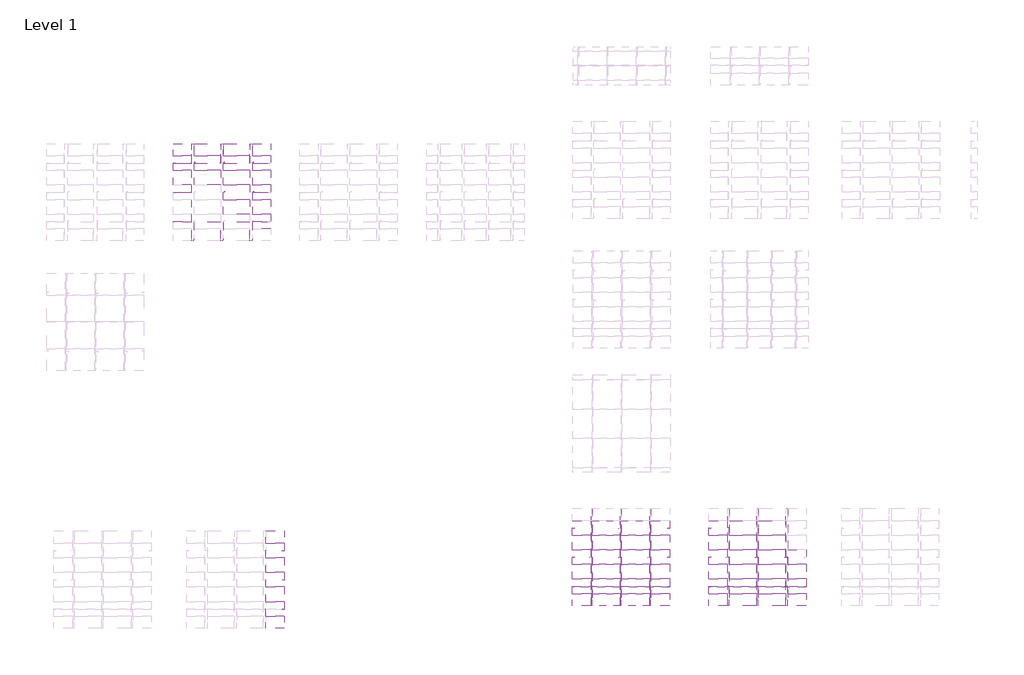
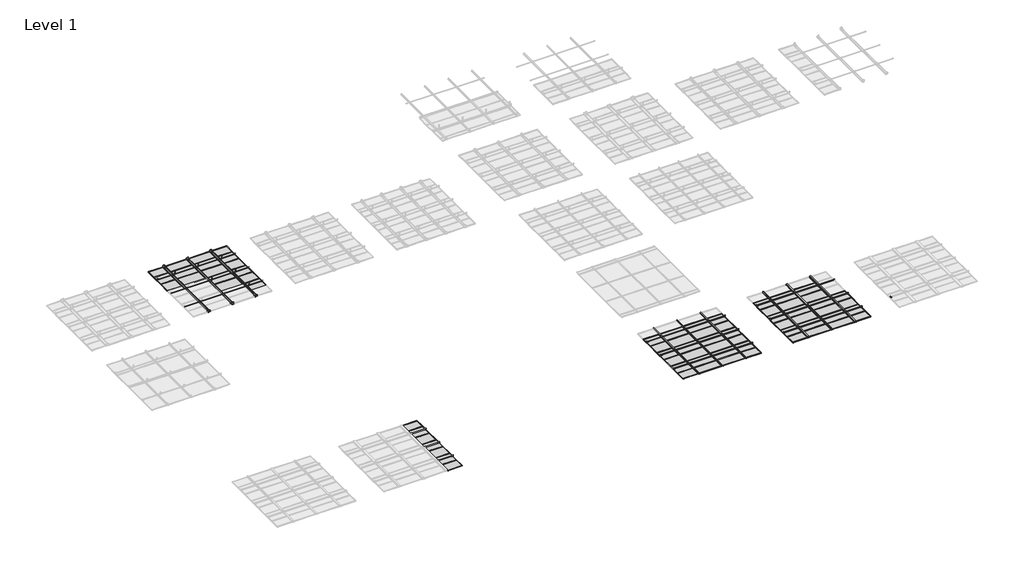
# One storey, part 4 of 32: 138 proxies.
"""IFC4 building model written with IfcOpenShell, lengths in millimetres."""

from ifc_helpers import new_model, si_unit, origin, place, context, project, spatial, transform, mapped, element, save
from components import generic_models_26e582ee, generic_models_d7250844, generic_models_7bf1d95b, generic_models_fdcbfbd4, generic_models_8bfca867, generic_models_ce491251, generic_models_84b6d0ed, generic_models_a920f71d, generic_models_29f93f66, generic_models_1190d022, generic_models_44d01217, generic_models_744256a4, generic_models_9b3707d3, generic_models_87aa2ed6, generic_models_93e67717, generic_models_0d7f372a, generic_models_a7cc5778, generic_models_073f8bfa, generic_models_5a70d6f2, generic_models_2307843b, generic_models_0fcaee43, generic_models_a7669d07, generic_models_9e18e937, generic_models_28f6a95c

model = new_model("IFC4")

# Units and contexts
model_context = context("Model", 3, world=origin())
ifc_project = project(units=[si_unit("LENGTHUNIT", "METRE", prefix="MILLI")], contexts=[model_context])

# Site, building, storey
site = spatial("IfcSite", under=ifc_project)
building = spatial("IfcBuilding", under=site)
storey = spatial("IfcBuildingStorey", under=building, Name="Level 1", Elevation=0.0)

# Proxies
placement = place(None, origin())
generic_models_shape = generic_models_26e582ee(model_context)
element("IfcBuildingElementProxy", 1, Name="durlum_S55.4-BR_RHOMBOS_panel : durlum_S55.4-BR_RHOMBOS_panel", ObjectType="durlum_S55.4-BR_RHOMBOS_panel : durlum_S55.4-BR_RHOMBOS_panel", at=placement, inside=storey, context=model_context, shape_type="MappedRepresentation", body=[
    mapped(generic_models_shape, transform((-33195.2269838, -2961.3211481, 3800.0), x_axis=(1.0, 0.0, 0.0), y_axis=(0.0, 1.0, 0.0), z_axis=(0.0, 0.0, 1.0))),
])
element("IfcBuildingElementProxy", 2, Name="durlum_S55.4-BR_RHOMBOS_panel : durlum_S55.4-BR_RHOMBOS_panel", ObjectType="durlum_S55.4-BR_RHOMBOS_panel : durlum_S55.4-BR_RHOMBOS_panel", at=placement, inside=storey, context=model_context, shape_type="MappedRepresentation", body=[
    mapped(generic_models_shape, transform((-33195.2269838, -2361.3211481, 3800.0), x_axis=(1.0, 0.0, 0.0), y_axis=(0.0, 1.0, 0.0), z_axis=(0.0, 0.0, 1.0))),
])
element("IfcBuildingElementProxy", 3, Name="durlum_S55.4-BR_RHOMBOS_panel : durlum_S55.4-BR_RHOMBOS_panel", ObjectType="durlum_S55.4-BR_RHOMBOS_panel : durlum_S55.4-BR_RHOMBOS_panel", at=placement, inside=storey, context=model_context, shape_type="MappedRepresentation", body=[
    mapped(generic_models_shape, transform((-34395.2269838, -1761.3211481, 3800.0), x_axis=(1.0, 0.0, 0.0), y_axis=(0.0, 1.0, 0.0), z_axis=(0.0, 0.0, 1.0))),
])
element("IfcBuildingElementProxy", 4, Name="durlum_S55.4-BR_RHOMBOS_panel : durlum_S55.4-BR_RHOMBOS_panel", ObjectType="durlum_S55.4-BR_RHOMBOS_panel : durlum_S55.4-BR_RHOMBOS_panel", at=placement, inside=storey, context=model_context, shape_type="MappedRepresentation", body=[
    mapped(generic_models_shape, transform((-33195.2269838, -1761.3211481, 3800.0), x_axis=(1.0, 0.0, 0.0), y_axis=(0.0, 1.0, 0.0), z_axis=(0.0, 0.0, 1.0))),
])
element("IfcBuildingElementProxy", 5, Name="durlum_S55.4-BR_RHOMBOS_panel : durlum_S55.4-BR_RHOMBOS_panel", ObjectType="durlum_S55.4-BR_RHOMBOS_panel : durlum_S55.4-BR_RHOMBOS_panel", at=placement, inside=storey, context=model_context, shape_type="MappedRepresentation", body=[
    mapped(generic_models_shape, transform((-34395.2269838, -1161.3211481, 3800.0), x_axis=(1.0, 0.0, 0.0), y_axis=(0.0, 1.0, 0.0), z_axis=(0.0, 0.0, 1.0))),
])
element("IfcBuildingElementProxy", 6, Name="durlum_S55.4-BR_RHOMBOS_panel : durlum_S55.4-BR_RHOMBOS_panel", ObjectType="durlum_S55.4-BR_RHOMBOS_panel : durlum_S55.4-BR_RHOMBOS_panel", at=placement, inside=storey, context=model_context, shape_type="MappedRepresentation", body=[
    mapped(generic_models_shape, transform((-33195.2269838, -1161.3211481, 3800.0), x_axis=(1.0, 0.0, 0.0), y_axis=(0.0, 1.0, 0.0), z_axis=(0.0, 0.0, 1.0))),
])
generic_models_2_shape = generic_models_d7250844(model_context)
element("IfcBuildingElementProxy", 7, Name="durlum_S55.4-BR_RHOMBOS_panel : durlum_S55.4-BR_RHOMBOS_panel_wall_width_cut", ObjectType="durlum_S55.4-BR_RHOMBOS_panel : durlum_S55.4-BR_RHOMBOS_panel_wall_width_cut", at=placement, inside=storey, context=model_context, shape_type="MappedRepresentation", body=[
    mapped(generic_models_2_shape, transform((-33195.2269838, -611.3211481, 3800.0), x_axis=(1.0, 0.0, 0.0), y_axis=(0.0, 1.0, 0.0), z_axis=(0.0, 0.0, 1.0))),
])
element("IfcBuildingElementProxy", 8, Name="durlum_S55.4-BR_RHOMBOS_panel : durlum_S55.4-BR_RHOMBOS_panel_wall_width_cut", ObjectType="durlum_S55.4-BR_RHOMBOS_panel : durlum_S55.4-BR_RHOMBOS_panel_wall_width_cut", at=placement, inside=storey, context=model_context, shape_type="MappedRepresentation", body=[
    mapped(generic_models_2_shape, transform((-34395.2269838, -611.3211481, 3800.0), x_axis=(1.0, 0.0, 0.0), y_axis=(0.0, 1.0, 0.0), z_axis=(0.0, 0.0, 1.0))),
])
generic_models_3_shape = generic_models_7bf1d95b(model_context)
element("IfcBuildingElementProxy", 9, Name="durlum_S55.4-BR_RHOMBOS_panel : durlum_S55.4-BR_RHOMBOS_panel_wall_length_cut", ObjectType="durlum_S55.4-BR_RHOMBOS_panel : durlum_S55.4-BR_RHOMBOS_panel_wall_length_cut", at=placement, inside=storey, context=model_context, shape_type="MappedRepresentation", body=[
    mapped(generic_models_3_shape, transform((-32167.7269838, -2961.3211481, 3800.0), x_axis=(1.0, 0.0, 0.0), y_axis=(0.0, 1.0, 0.0), z_axis=(0.0, 0.0, 1.0))),
])
element("IfcBuildingElementProxy", 10, Name="durlum_S55.4-BR_RHOMBOS_panel : durlum_S55.4-BR_RHOMBOS_panel_wall_length_cut", ObjectType="durlum_S55.4-BR_RHOMBOS_panel : durlum_S55.4-BR_RHOMBOS_panel_wall_length_cut", at=placement, inside=storey, context=model_context, shape_type="MappedRepresentation", body=[
    mapped(generic_models_3_shape, transform((-32167.7269838, -2361.3211481, 3800.0), x_axis=(1.0, 0.0, 0.0), y_axis=(0.0, 1.0, 0.0), z_axis=(0.0, 0.0, 1.0))),
])
element("IfcBuildingElementProxy", 11, Name="durlum_S55.4-BR_RHOMBOS_panel : durlum_S55.4-BR_RHOMBOS_panel_wall_length_cut", ObjectType="durlum_S55.4-BR_RHOMBOS_panel : durlum_S55.4-BR_RHOMBOS_panel_wall_length_cut", at=placement, inside=storey, context=model_context, shape_type="MappedRepresentation", body=[
    mapped(generic_models_3_shape, transform((-35422.7269838, -1761.3211481, 3800.0), x_axis=(1.0, 0.0, 0.0), y_axis=(0.0, 1.0, 0.0), z_axis=(0.0, 0.0, 1.0))),
])
element("IfcBuildingElementProxy", 12, Name="durlum_S55.4-BR_RHOMBOS_panel : durlum_S55.4-BR_RHOMBOS_panel_wall_length_cut", ObjectType="durlum_S55.4-BR_RHOMBOS_panel : durlum_S55.4-BR_RHOMBOS_panel_wall_length_cut", at=placement, inside=storey, context=model_context, shape_type="MappedRepresentation", body=[
    mapped(generic_models_3_shape, transform((-32167.7269838, -1761.3211481, 3800.0), x_axis=(1.0, 0.0, 0.0), y_axis=(0.0, 1.0, 0.0), z_axis=(0.0, 0.0, 1.0))),
])
element("IfcBuildingElementProxy", 13, Name="durlum_S55.4-BR_RHOMBOS_panel : durlum_S55.4-BR_RHOMBOS_panel_wall_length_cut", ObjectType="durlum_S55.4-BR_RHOMBOS_panel : durlum_S55.4-BR_RHOMBOS_panel_wall_length_cut", at=placement, inside=storey, context=model_context, shape_type="MappedRepresentation", body=[
    mapped(generic_models_3_shape, transform((-32167.7269838, -3561.3211481, 3800.0), x_axis=(1.0, 0.0, 0.0), y_axis=(0.0, 1.0, 0.0), z_axis=(0.0, 0.0, 1.0))),
])
element("IfcBuildingElementProxy", 14, Name="durlum_S55.4-BR_RHOMBOS_panel : durlum_S55.4-BR_RHOMBOS_panel_wall_length_cut", ObjectType="durlum_S55.4-BR_RHOMBOS_panel : durlum_S55.4-BR_RHOMBOS_panel_wall_length_cut", at=placement, inside=storey, context=model_context, shape_type="MappedRepresentation", body=[
    mapped(generic_models_3_shape, transform((-32167.7269838, -1161.3211481, 3800.0), x_axis=(1.0, 0.0, 0.0), y_axis=(0.0, 1.0, 0.0), z_axis=(0.0, 0.0, 1.0))),
])
element("IfcBuildingElementProxy", 15, Name="durlum_S55.4-BR_RHOMBOS_panel : durlum_S55.4-BR_RHOMBOS_panel_wall_length_cut", ObjectType="durlum_S55.4-BR_RHOMBOS_panel : durlum_S55.4-BR_RHOMBOS_panel_wall_length_cut", at=placement, inside=storey, context=model_context, shape_type="MappedRepresentation", body=[
    mapped(generic_models_3_shape, transform((-35422.7269838, -1161.3211481, 3800.0), x_axis=(1.0, 0.0, 0.0), y_axis=(0.0, 1.0, 0.0), z_axis=(0.0, 0.0, 1.0))),
])
generic_models_4_shape = generic_models_fdcbfbd4(model_context)
element("IfcBuildingElementProxy", 16, Name="durlum_S55.4-BR_RHOMBOS_panel : durlum_S55.4-BR_RHOMBOS_panel_wall_corner", ObjectType="durlum_S55.4-BR_RHOMBOS_panel : durlum_S55.4-BR_RHOMBOS_panel_wall_corner", at=placement, inside=storey, context=model_context, shape_type="MappedRepresentation", body=[
    mapped(generic_models_4_shape, transform((-32167.7269838, -611.3211481, 3800.0), x_axis=(1.0, 0.0, 0.0), y_axis=(0.0, 1.0, 0.0), z_axis=(0.0, 0.0, 1.0))),
])
element("IfcBuildingElementProxy", 17, Name="durlum_S55.4-BR_RHOMBOS_panel : durlum_S55.4-BR_RHOMBOS_panel_wall_corner", ObjectType="durlum_S55.4-BR_RHOMBOS_panel : durlum_S55.4-BR_RHOMBOS_panel_wall_corner", at=placement, inside=storey, context=model_context, shape_type="MappedRepresentation", body=[
    mapped(generic_models_4_shape, transform((-35422.7269838, -611.3211481, 3800.0), x_axis=(1.0, 0.0, 0.0), y_axis=(0.0, 1.0, 0.0), z_axis=(0.0, 0.0, 1.0))),
])
generic_models_5_shape = generic_models_8bfca867(model_context)
element("IfcBuildingElementProxy", 18, Name="durlum_S5.4K-BR_RHOMBOS : durlum_S5.4K-BR_RHOMBOS", ObjectType="durlum_S5.4K-BR_RHOMBOS : durlum_S5.4K-BR_RHOMBOS", at=placement, inside=storey, context=model_context, shape_type="MappedRepresentation", body=[
    mapped(generic_models_5_shape, transform((-33795.2269838, -2361.3211481, 1700.0), x_axis=(1.0, 0.0, 0.0), y_axis=(0.0, 1.0, 0.0), z_axis=(0.0, 0.0, 1.0))),
])
generic_models_6_shape = generic_models_ce491251(model_context)
element("IfcBuildingElementProxy", 19, Name="durlum_U1300 : durlum_U1300", ObjectType="durlum_U1300 : durlum_U1300", at=placement, inside=storey, context=model_context, shape_type="MappedRepresentation", body=[
    mapped(generic_models_6_shape, transform((-34895.2269838, -1161.3211481, 3149.4124682), x_axis=(-1.0, 0.0, 0.0), y_axis=(0.0, -1.0, 0.0), z_axis=(0.0, 0.0, 1.0))),
])
element("IfcBuildingElementProxy", 20, Name="durlum_U1300 : durlum_U1300", ObjectType="durlum_U1300 : durlum_U1300", at=placement, inside=storey, context=model_context, shape_type="MappedRepresentation", body=[
    mapped(generic_models_6_shape, transform((-32495.2269838, -1161.3211481, 3149.4124682), x_axis=(-1.0, 0.0, 0.0), y_axis=(0.0, -1.0, 0.0), z_axis=(0.0, 0.0, 1.0))),
])
element("IfcBuildingElementProxy", 21, Name="durlum_U1300 : durlum_U1300", ObjectType="durlum_U1300 : durlum_U1300", at=placement, inside=storey, context=model_context, shape_type="MappedRepresentation", body=[
    mapped(generic_models_6_shape, transform((-33695.2269838, -1161.3211481, 3149.4124682), x_axis=(-1.0, 0.0, 0.0), y_axis=(0.0, -1.0, 0.0), z_axis=(0.0, 0.0, 1.0))),
])
element("IfcBuildingElementProxy", 22, Name="durlum_U1300 : durlum_U1300", ObjectType="durlum_U1300 : durlum_U1300", at=placement, inside=storey, context=model_context, shape_type="MappedRepresentation", body=[
    mapped(generic_models_6_shape, transform((-32495.2269838, -2361.3211481, 3149.4124682), x_axis=(-1.0, 0.0, 0.0), y_axis=(0.0, -1.0, 0.0), z_axis=(0.0, 0.0, 1.0))),
])
element("IfcBuildingElementProxy", 23, Name="durlum_U1300 : durlum_U1300", ObjectType="durlum_U1300 : durlum_U1300", at=placement, inside=storey, context=model_context, shape_type="MappedRepresentation", body=[
    mapped(generic_models_6_shape, transform((-33695.2269838, -2361.3211481, 3149.4124682), x_axis=(-1.0, 0.0, 0.0), y_axis=(0.0, -1.0, 0.0), z_axis=(0.0, 0.0, 1.0))),
])
generic_models_7_shape = generic_models_84b6d0ed(model_context)
element("IfcBuildingElementProxy", 24, Name="durlum_OM76_bracket : durlum_OM76_bracket", ObjectType="durlum_OM76_bracket : durlum_OM76_bracket", at=placement, inside=storey, context=model_context, shape_type="MappedRepresentation", body=[
    mapped(generic_models_7_shape, transform((-18619.1736977, -17333.8492254, 3864.0), x_axis=(1.0, 0.0, 0.0), y_axis=(0.0, 1.0, 0.0), z_axis=(0.0, 0.0, 1.0))),
])
element("IfcBuildingElementProxy", 25, Name="durlum_OM76_bracket : durlum_OM76_bracket", ObjectType="durlum_OM76_bracket : durlum_OM76_bracket", at=placement, inside=storey, context=model_context, shape_type="MappedRepresentation", body=[
    mapped(generic_models_7_shape, transform((-16219.1736977, -17333.8492254, 3864.0), x_axis=(1.0, 0.0, 0.0), y_axis=(0.0, 1.0, 0.0), z_axis=(0.0, 0.0, 1.0))),
])
element("IfcBuildingElementProxy", 26, Name="durlum_OM76_bracket : durlum_OM76_bracket", ObjectType="durlum_OM76_bracket : durlum_OM76_bracket", at=placement, inside=storey, context=model_context, shape_type="MappedRepresentation", body=[
    mapped(generic_models_7_shape, transform((-17419.1736977, -17333.8492254, 3864.0), x_axis=(1.0, 0.0, 0.0), y_axis=(0.0, 1.0, 0.0), z_axis=(0.0, 0.0, 1.0))),
])
element("IfcBuildingElementProxy", 27, Name="durlum_OM76_bracket : durlum_OM76_bracket", ObjectType="durlum_OM76_bracket : durlum_OM76_bracket", at=placement, inside=storey, context=model_context, shape_type="MappedRepresentation", body=[
    mapped(generic_models_7_shape, transform((-18619.1736977, -16133.8492254, 3864.0), x_axis=(1.0, 0.0, 0.0), y_axis=(0.0, 1.0, 0.0), z_axis=(0.0, 0.0, 1.0))),
])
element("IfcBuildingElementProxy", 28, Name="durlum_OM76_bracket : durlum_OM76_bracket", ObjectType="durlum_OM76_bracket : durlum_OM76_bracket", at=placement, inside=storey, context=model_context, shape_type="MappedRepresentation", body=[
    mapped(generic_models_7_shape, transform((-16219.1736977, -16133.8492254, 3864.0), x_axis=(1.0, 0.0, 0.0), y_axis=(0.0, 1.0, 0.0), z_axis=(0.0, 0.0, 1.0))),
])
element("IfcBuildingElementProxy", 29, Name="durlum_OM76_bracket : durlum_OM76_bracket", ObjectType="durlum_OM76_bracket : durlum_OM76_bracket", at=placement, inside=storey, context=model_context, shape_type="MappedRepresentation", body=[
    mapped(generic_models_7_shape, transform((-17419.1736977, -16133.8492254, 3864.0), x_axis=(1.0, 0.0, 0.0), y_axis=(0.0, 1.0, 0.0), z_axis=(0.0, 0.0, 1.0))),
])
element("IfcBuildingElementProxy", 30, Name="durlum_OM76_bracket : durlum_OM76_bracket", ObjectType="durlum_OM76_bracket : durlum_OM76_bracket", at=placement, inside=storey, context=model_context, shape_type="MappedRepresentation", body=[
    mapped(generic_models_7_shape, transform((-18619.1736977, -18533.8492254, 3864.0), x_axis=(1.0, 0.0, 0.0), y_axis=(0.0, 1.0, 0.0), z_axis=(0.0, 0.0, 1.0))),
])
element("IfcBuildingElementProxy", 31, Name="durlum_OM76_bracket : durlum_OM76_bracket", ObjectType="durlum_OM76_bracket : durlum_OM76_bracket", at=placement, inside=storey, context=model_context, shape_type="MappedRepresentation", body=[
    mapped(generic_models_7_shape, transform((-16219.1736977, -18533.8492254, 3864.0), x_axis=(1.0, 0.0, 0.0), y_axis=(0.0, 1.0, 0.0), z_axis=(0.0, 0.0, 1.0))),
])
element("IfcBuildingElementProxy", 32, Name="durlum_OM76_bracket : durlum_OM76_bracket", ObjectType="durlum_OM76_bracket : durlum_OM76_bracket", at=placement, inside=storey, context=model_context, shape_type="MappedRepresentation", body=[
    mapped(generic_models_7_shape, transform((-17419.1736977, -18533.8492254, 3864.0), x_axis=(1.0, 0.0, 0.0), y_axis=(0.0, 1.0, 0.0), z_axis=(0.0, 0.0, 1.0))),
])
element("IfcBuildingElementProxy", 33, Name="durlum_OM76_bracket : durlum_OM76_bracket", ObjectType="durlum_OM76_bracket : durlum_OM76_bracket", at=placement, inside=storey, context=model_context, shape_type="MappedRepresentation", body=[
    mapped(generic_models_7_shape, transform((-10593.7945168, -17333.8492254, 3864.0), x_axis=(1.0, 0.0, 0.0), y_axis=(0.0, 1.0, 0.0), z_axis=(0.0, 0.0, 1.0))),
])
element("IfcBuildingElementProxy", 34, Name="durlum_OM76_bracket : durlum_OM76_bracket", ObjectType="durlum_OM76_bracket : durlum_OM76_bracket", at=placement, inside=storey, context=model_context, shape_type="MappedRepresentation", body=[
    mapped(generic_models_7_shape, transform((-12993.7945168, -17333.8492254, 3864.0), x_axis=(1.0, 0.0, 0.0), y_axis=(0.0, 1.0, 0.0), z_axis=(0.0, 0.0, 1.0))),
])
element("IfcBuildingElementProxy", 35, Name="durlum_OM76_bracket : durlum_OM76_bracket", ObjectType="durlum_OM76_bracket : durlum_OM76_bracket", at=placement, inside=storey, context=model_context, shape_type="MappedRepresentation", body=[
    mapped(generic_models_7_shape, transform((-11793.7945168, -17333.8492254, 3864.0), x_axis=(1.0, 0.0, 0.0), y_axis=(0.0, 1.0, 0.0), z_axis=(0.0, 0.0, 1.0))),
])
element("IfcBuildingElementProxy", 36, Name="durlum_OM76_bracket : durlum_OM76_bracket", ObjectType="durlum_OM76_bracket : durlum_OM76_bracket", at=placement, inside=storey, context=model_context, shape_type="MappedRepresentation", body=[
    mapped(generic_models_7_shape, transform((-13031.7945168, -17333.8492254, 3864.0), x_axis=(1.0, 0.0, 0.0), y_axis=(0.0, 1.0, 0.0), z_axis=(0.0, 0.0, 1.0))),
])
element("IfcBuildingElementProxy", 37, Name="durlum_OM76_bracket : durlum_OM76_bracket", ObjectType="durlum_OM76_bracket : durlum_OM76_bracket", at=placement, inside=storey, context=model_context, shape_type="MappedRepresentation", body=[
    mapped(generic_models_7_shape, transform((-10631.7945168, -17333.8492254, 3864.0), x_axis=(1.0, 0.0, 0.0), y_axis=(0.0, 1.0, 0.0), z_axis=(0.0, 0.0, 1.0))),
])
element("IfcBuildingElementProxy", 38, Name="durlum_OM76_bracket : durlum_OM76_bracket", ObjectType="durlum_OM76_bracket : durlum_OM76_bracket", at=placement, inside=storey, context=model_context, shape_type="MappedRepresentation", body=[
    mapped(generic_models_7_shape, transform((-11831.7945168, -17333.8492254, 3864.0), x_axis=(1.0, 0.0, 0.0), y_axis=(0.0, 1.0, 0.0), z_axis=(0.0, 0.0, 1.0))),
])
element("IfcBuildingElementProxy", 39, Name="durlum_OM76_bracket : durlum_OM76_bracket", ObjectType="durlum_OM76_bracket : durlum_OM76_bracket", at=placement, inside=storey, context=model_context, shape_type="MappedRepresentation", body=[
    mapped(generic_models_7_shape, transform((-10593.7945168, -18533.8492254, 3864.0), x_axis=(1.0, 0.0, 0.0), y_axis=(0.0, 1.0, 0.0), z_axis=(0.0, 0.0, 1.0))),
])
element("IfcBuildingElementProxy", 40, Name="durlum_OM76_bracket : durlum_OM76_bracket", ObjectType="durlum_OM76_bracket : durlum_OM76_bracket", at=placement, inside=storey, context=model_context, shape_type="MappedRepresentation", body=[
    mapped(generic_models_7_shape, transform((-12993.7945168, -18533.8492254, 3864.0), x_axis=(1.0, 0.0, 0.0), y_axis=(0.0, 1.0, 0.0), z_axis=(0.0, 0.0, 1.0))),
])
element("IfcBuildingElementProxy", 41, Name="durlum_OM76_bracket : durlum_OM76_bracket", ObjectType="durlum_OM76_bracket : durlum_OM76_bracket", at=placement, inside=storey, context=model_context, shape_type="MappedRepresentation", body=[
    mapped(generic_models_7_shape, transform((-11793.7945168, -18533.8492254, 3864.0), x_axis=(1.0, 0.0, 0.0), y_axis=(0.0, 1.0, 0.0), z_axis=(0.0, 0.0, 1.0))),
])
element("IfcBuildingElementProxy", 42, Name="durlum_OM76_bracket : durlum_OM76_bracket", ObjectType="durlum_OM76_bracket : durlum_OM76_bracket", at=placement, inside=storey, context=model_context, shape_type="MappedRepresentation", body=[
    mapped(generic_models_7_shape, transform((-13031.7945168, -18533.8492254, 3864.0), x_axis=(1.0, 0.0, 0.0), y_axis=(0.0, 1.0, 0.0), z_axis=(0.0, 0.0, 1.0))),
])
element("IfcBuildingElementProxy", 43, Name="durlum_OM76_bracket : durlum_OM76_bracket", ObjectType="durlum_OM76_bracket : durlum_OM76_bracket", at=placement, inside=storey, context=model_context, shape_type="MappedRepresentation", body=[
    mapped(generic_models_7_shape, transform((-10631.7945168, -18533.8492254, 3864.0), x_axis=(1.0, 0.0, 0.0), y_axis=(0.0, 1.0, 0.0), z_axis=(0.0, 0.0, 1.0))),
])
element("IfcBuildingElementProxy", 44, Name="durlum_OM76_bracket : durlum_OM76_bracket", ObjectType="durlum_OM76_bracket : durlum_OM76_bracket", at=placement, inside=storey, context=model_context, shape_type="MappedRepresentation", body=[
    mapped(generic_models_7_shape, transform((-11831.7945168, -18533.8492254, 3864.0), x_axis=(1.0, 0.0, 0.0), y_axis=(0.0, 1.0, 0.0), z_axis=(0.0, 0.0, 1.0))),
])
element("IfcBuildingElementProxy", 45, Name="durlum_OM76_bracket : durlum_OM76_bracket", ObjectType="durlum_OM76_bracket : durlum_OM76_bracket", at=placement, inside=storey, context=model_context, shape_type="MappedRepresentation", body=[
    mapped(generic_models_7_shape, transform((-12993.7945168, -16133.8492254, 3864.0), x_axis=(1.0, 0.0, 0.0), y_axis=(0.0, 1.0, 0.0), z_axis=(0.0, 0.0, 1.0))),
])
element("IfcBuildingElementProxy", 46, Name="durlum_OM76_bracket : durlum_OM76_bracket", ObjectType="durlum_OM76_bracket : durlum_OM76_bracket", at=placement, inside=storey, context=model_context, shape_type="MappedRepresentation", body=[
    mapped(generic_models_7_shape, transform((-13031.7945168, -16133.8492254, 3864.0), x_axis=(1.0, 0.0, 0.0), y_axis=(0.0, 1.0, 0.0), z_axis=(0.0, 0.0, 1.0))),
])
generic_models_8_shape = generic_models_a920f71d(model_context)
element("IfcBuildingElementProxy", 47, Name="durlum_threaded_rod_M6 : durlum_threaded_rod_M6", ObjectType="durlum_threaded_rod_M6 : durlum_threaded_rod_M6", at=placement, inside=storey, context=model_context, shape_type="MappedRepresentation", body=[
    mapped(generic_models_8_shape, transform((-16319.1736977, -17349.3492254, 3876.0), x_axis=(1.0, 0.0, 0.0), y_axis=(0.0, 1.0, 0.0), z_axis=(0.0, 0.0, 1.0))),
])
element("IfcBuildingElementProxy", 48, Name="durlum_threaded_rod_M6 : durlum_threaded_rod_M6", ObjectType="durlum_threaded_rod_M6 : durlum_threaded_rod_M6", at=placement, inside=storey, context=model_context, shape_type="MappedRepresentation", body=[
    mapped(generic_models_8_shape, transform((-18719.1736977, -17349.3492254, 3876.0), x_axis=(1.0, 0.0, 0.0), y_axis=(0.0, 1.0, 0.0), z_axis=(0.0, 0.0, 1.0))),
])
element("IfcBuildingElementProxy", 49, Name="durlum_threaded_rod_M6 : durlum_threaded_rod_M6", ObjectType="durlum_threaded_rod_M6 : durlum_threaded_rod_M6", at=placement, inside=storey, context=model_context, shape_type="MappedRepresentation", body=[
    mapped(generic_models_8_shape, transform((-17519.1736977, -17349.3492254, 3876.0), x_axis=(1.0, 0.0, 0.0), y_axis=(0.0, 1.0, 0.0), z_axis=(0.0, 0.0, 1.0))),
])
element("IfcBuildingElementProxy", 50, Name="durlum_threaded_rod_M6 : durlum_threaded_rod_M6", ObjectType="durlum_threaded_rod_M6 : durlum_threaded_rod_M6", at=placement, inside=storey, context=model_context, shape_type="MappedRepresentation", body=[
    mapped(generic_models_8_shape, transform((-16319.1736977, -16149.3492254, 3876.0), x_axis=(1.0, 0.0, 0.0), y_axis=(0.0, 1.0, 0.0), z_axis=(0.0, 0.0, 1.0))),
])
element("IfcBuildingElementProxy", 51, Name="durlum_threaded_rod_M6 : durlum_threaded_rod_M6", ObjectType="durlum_threaded_rod_M6 : durlum_threaded_rod_M6", at=placement, inside=storey, context=model_context, shape_type="MappedRepresentation", body=[
    mapped(generic_models_8_shape, transform((-18719.1736977, -16149.3492254, 3876.0), x_axis=(1.0, 0.0, 0.0), y_axis=(0.0, 1.0, 0.0), z_axis=(0.0, 0.0, 1.0))),
])
element("IfcBuildingElementProxy", 52, Name="durlum_threaded_rod_M6 : durlum_threaded_rod_M6", ObjectType="durlum_threaded_rod_M6 : durlum_threaded_rod_M6", at=placement, inside=storey, context=model_context, shape_type="MappedRepresentation", body=[
    mapped(generic_models_8_shape, transform((-17519.1736977, -16149.3492254, 3876.0), x_axis=(1.0, 0.0, 0.0), y_axis=(0.0, 1.0, 0.0), z_axis=(0.0, 0.0, 1.0))),
])
element("IfcBuildingElementProxy", 53, Name="durlum_threaded_rod_M6 : durlum_threaded_rod_M6", ObjectType="durlum_threaded_rod_M6 : durlum_threaded_rod_M6", at=placement, inside=storey, context=model_context, shape_type="MappedRepresentation", body=[
    mapped(generic_models_8_shape, transform((-16319.1736977, -18549.3492254, 3876.0), x_axis=(1.0, 0.0, 0.0), y_axis=(0.0, 1.0, 0.0), z_axis=(0.0, 0.0, 1.0))),
])
element("IfcBuildingElementProxy", 54, Name="durlum_threaded_rod_M6 : durlum_threaded_rod_M6", ObjectType="durlum_threaded_rod_M6 : durlum_threaded_rod_M6", at=placement, inside=storey, context=model_context, shape_type="MappedRepresentation", body=[
    mapped(generic_models_8_shape, transform((-18719.1736977, -18549.3492254, 3876.0), x_axis=(1.0, 0.0, 0.0), y_axis=(0.0, 1.0, 0.0), z_axis=(0.0, 0.0, 1.0))),
])
element("IfcBuildingElementProxy", 55, Name="durlum_threaded_rod_M6 : durlum_threaded_rod_M6", ObjectType="durlum_threaded_rod_M6 : durlum_threaded_rod_M6", at=placement, inside=storey, context=model_context, shape_type="MappedRepresentation", body=[
    mapped(generic_models_8_shape, transform((-17519.1736977, -18549.3492254, 3876.0), x_axis=(1.0, 0.0, 0.0), y_axis=(0.0, 1.0, 0.0), z_axis=(0.0, 0.0, 1.0))),
])
element("IfcBuildingElementProxy", 56, Name="durlum_threaded_rod_M6 : durlum_threaded_rod_M6", ObjectType="durlum_threaded_rod_M6 : durlum_threaded_rod_M6", at=placement, inside=storey, context=model_context, shape_type="MappedRepresentation", body=[
    mapped(generic_models_8_shape, transform((-10712.7945168, -17349.3492254, 3876.0), x_axis=(1.0, 0.0, 0.0), y_axis=(0.0, 1.0, 0.0), z_axis=(0.0, 0.0, 1.0))),
])
element("IfcBuildingElementProxy", 57, Name="durlum_threaded_rod_M6 : durlum_threaded_rod_M6", ObjectType="durlum_threaded_rod_M6 : durlum_threaded_rod_M6", at=placement, inside=storey, context=model_context, shape_type="MappedRepresentation", body=[
    mapped(generic_models_8_shape, transform((-13112.7945168, -17349.3492254, 3876.0), x_axis=(1.0, 0.0, 0.0), y_axis=(0.0, 1.0, 0.0), z_axis=(0.0, 0.0, 1.0))),
])
element("IfcBuildingElementProxy", 58, Name="durlum_threaded_rod_M6 : durlum_threaded_rod_M6", ObjectType="durlum_threaded_rod_M6 : durlum_threaded_rod_M6", at=placement, inside=storey, context=model_context, shape_type="MappedRepresentation", body=[
    mapped(generic_models_8_shape, transform((-11912.7945168, -17349.3492254, 3876.0), x_axis=(1.0, 0.0, 0.0), y_axis=(0.0, 1.0, 0.0), z_axis=(0.0, 0.0, 1.0))),
])
element("IfcBuildingElementProxy", 59, Name="durlum_threaded_rod_M6 : durlum_threaded_rod_M6", ObjectType="durlum_threaded_rod_M6 : durlum_threaded_rod_M6", at=placement, inside=storey, context=model_context, shape_type="MappedRepresentation", body=[
    mapped(generic_models_8_shape, transform((-10712.7945168, -18549.3492254, 3876.0), x_axis=(1.0, 0.0, 0.0), y_axis=(0.0, 1.0, 0.0), z_axis=(0.0, 0.0, 1.0))),
])
element("IfcBuildingElementProxy", 60, Name="durlum_threaded_rod_M6 : durlum_threaded_rod_M6", ObjectType="durlum_threaded_rod_M6 : durlum_threaded_rod_M6", at=placement, inside=storey, context=model_context, shape_type="MappedRepresentation", body=[
    mapped(generic_models_8_shape, transform((-13112.7945168, -18549.3492254, 3876.0), x_axis=(1.0, 0.0, 0.0), y_axis=(0.0, 1.0, 0.0), z_axis=(0.0, 0.0, 1.0))),
])
element("IfcBuildingElementProxy", 61, Name="durlum_threaded_rod_M6 : durlum_threaded_rod_M6", ObjectType="durlum_threaded_rod_M6 : durlum_threaded_rod_M6", at=placement, inside=storey, context=model_context, shape_type="MappedRepresentation", body=[
    mapped(generic_models_8_shape, transform((-11912.7945168, -18549.3492254, 3876.0), x_axis=(1.0, 0.0, 0.0), y_axis=(0.0, 1.0, 0.0), z_axis=(0.0, 0.0, 1.0))),
])
element("IfcBuildingElementProxy", 62, Name="durlum_threaded_rod_M6 : durlum_threaded_rod_M6", ObjectType="durlum_threaded_rod_M6 : durlum_threaded_rod_M6", at=placement, inside=storey, context=model_context, shape_type="MappedRepresentation", body=[
    mapped(generic_models_8_shape, transform((-13112.7945168, -16149.3492254, 3876.0), x_axis=(1.0, 0.0, 0.0), y_axis=(0.0, 1.0, 0.0), z_axis=(0.0, 0.0, 1.0))),
])
generic_models_9_shape = generic_models_29f93f66(model_context)
element("IfcBuildingElementProxy", 63, Name="durlum_OMEGA_63 : durlum_OMEGA_63", ObjectType="durlum_OMEGA_63 : durlum_OMEGA_63", at=placement, inside=storey, context=model_context, shape_type="MappedRepresentation", body=[
    mapped(generic_models_9_shape, transform((-11812.7945168, -17335.3492254, 3800.0), x_axis=(0.0, -1.0, 0.0), y_axis=(1.0, 0.0, 0.0), z_axis=(0.0, 0.0, 1.0))),
])
element("IfcBuildingElementProxy", 64, Name="durlum_OMEGA_63 : durlum_OMEGA_63", ObjectType="durlum_OMEGA_63 : durlum_OMEGA_63", at=placement, inside=storey, context=model_context, shape_type="MappedRepresentation", body=[
    mapped(generic_models_9_shape, transform((-13012.7945168, -17335.3492254, 3800.0), x_axis=(0.0, -1.0, 0.0), y_axis=(1.0, 0.0, 0.0), z_axis=(0.0, 0.0, 1.0))),
])
element("IfcBuildingElementProxy", 65, Name="durlum_OMEGA_63 : durlum_OMEGA_63", ObjectType="durlum_OMEGA_63 : durlum_OMEGA_63", at=placement, inside=storey, context=model_context, shape_type="MappedRepresentation", body=[
    mapped(generic_models_9_shape, transform((-10612.7945168, -17335.3492254, 3800.0), x_axis=(0.0, -1.0, 0.0), y_axis=(1.0, 0.0, 0.0), z_axis=(0.0, 0.0, 1.0))),
])
generic_models_10_shape = generic_models_1190d022(model_context)
element("IfcBuildingElementProxy", 66, Name="durlum_S-OM-63 : durlum_S-OM-63_panel_wall_width_cut", ObjectType="durlum_S-OM-63 : durlum_S-OM-63_panel_wall_width_cut", at=placement, inside=storey, context=model_context, shape_type="MappedRepresentation", body=[
    mapped(generic_models_10_shape, transform((-11212.7945168, -19085.3492254, 3800.0), x_axis=(1.0, 0.0, 0.0), y_axis=(0.0, 1.0, 0.0), z_axis=(0.0, 0.0, 1.0))),
])
element("IfcBuildingElementProxy", 67, Name="durlum_S-OM-63 : durlum_S-OM-63_panel_wall_width_cut", ObjectType="durlum_S-OM-63 : durlum_S-OM-63_panel_wall_width_cut", at=placement, inside=storey, context=model_context, shape_type="MappedRepresentation", body=[
    mapped(generic_models_10_shape, transform((-12412.7945168, -19085.3492254, 3800.0), x_axis=(1.0, 0.0, 0.0), y_axis=(0.0, 1.0, 0.0), z_axis=(0.0, 0.0, 1.0))),
])
generic_models_11_shape = generic_models_44d01217(model_context)
element("IfcBuildingElementProxy", 68, Name="durlum_S-OM-63 : durlum_S-OM-63_panel", ObjectType="durlum_S-OM-63 : durlum_S-OM-63_panel", at=placement, inside=storey, context=model_context, shape_type="MappedRepresentation", body=[
    mapped(generic_models_11_shape, transform((-12412.7945168, -17935.3492254, 3800.0), x_axis=(1.0, 0.0, 0.0), y_axis=(0.0, 1.0, 0.0), z_axis=(0.0, 0.0, 1.0))),
])
element("IfcBuildingElementProxy", 69, Name="durlum_S-OM-63 : durlum_S-OM-63_panel", ObjectType="durlum_S-OM-63 : durlum_S-OM-63_panel", at=placement, inside=storey, context=model_context, shape_type="MappedRepresentation", body=[
    mapped(generic_models_11_shape, transform((-11212.7945168, -17935.3492254, 3800.0), x_axis=(1.0, 0.0, 0.0), y_axis=(0.0, 1.0, 0.0), z_axis=(0.0, 0.0, 1.0))),
])
element("IfcBuildingElementProxy", 70, Name="durlum_S-OM-63 : durlum_S-OM-63_panel", ObjectType="durlum_S-OM-63 : durlum_S-OM-63_panel", at=placement, inside=storey, context=model_context, shape_type="MappedRepresentation", body=[
    mapped(generic_models_11_shape, transform((-12412.7945168, -17335.3492254, 3800.0), x_axis=(1.0, 0.0, 0.0), y_axis=(0.0, 1.0, 0.0), z_axis=(0.0, 0.0, 1.0))),
])
element("IfcBuildingElementProxy", 71, Name="durlum_S-OM-63 : durlum_S-OM-63_panel", ObjectType="durlum_S-OM-63 : durlum_S-OM-63_panel", at=placement, inside=storey, context=model_context, shape_type="MappedRepresentation", body=[
    mapped(generic_models_11_shape, transform((-11212.7945168, -17335.3492254, 3800.0), x_axis=(1.0, 0.0, 0.0), y_axis=(0.0, 1.0, 0.0), z_axis=(0.0, 0.0, 1.0))),
])
element("IfcBuildingElementProxy", 72, Name="durlum_S-OM-63 : durlum_S-OM-63_panel", ObjectType="durlum_S-OM-63 : durlum_S-OM-63_panel", at=placement, inside=storey, context=model_context, shape_type="MappedRepresentation", body=[
    mapped(generic_models_11_shape, transform((-12412.7945168, -16735.3492254, 3800.0), x_axis=(1.0, 0.0, 0.0), y_axis=(0.0, 1.0, 0.0), z_axis=(0.0, 0.0, 1.0))),
])
element("IfcBuildingElementProxy", 73, Name="durlum_S-OM-63 : durlum_S-OM-63_panel", ObjectType="durlum_S-OM-63 : durlum_S-OM-63_panel", at=placement, inside=storey, context=model_context, shape_type="MappedRepresentation", body=[
    mapped(generic_models_11_shape, transform((-11212.7945168, -16735.3492254, 3800.0), x_axis=(1.0, 0.0, 0.0), y_axis=(0.0, 1.0, 0.0), z_axis=(0.0, 0.0, 1.0))),
])
element("IfcBuildingElementProxy", 74, Name="durlum_S-OM-63 : durlum_S-OM-63_panel", ObjectType="durlum_S-OM-63 : durlum_S-OM-63_panel", at=placement, inside=storey, context=model_context, shape_type="MappedRepresentation", body=[
    mapped(generic_models_11_shape, transform((-12412.7945168, -18535.3492254, 3800.0), x_axis=(1.0, 0.0, 0.0), y_axis=(0.0, 1.0, 0.0), z_axis=(0.0, 0.0, 1.0))),
])
element("IfcBuildingElementProxy", 75, Name="durlum_S-OM-63 : durlum_S-OM-63_panel", ObjectType="durlum_S-OM-63 : durlum_S-OM-63_panel", at=placement, inside=storey, context=model_context, shape_type="MappedRepresentation", body=[
    mapped(generic_models_11_shape, transform((-11212.7945168, -18535.3492254, 3800.0), x_axis=(1.0, 0.0, 0.0), y_axis=(0.0, 1.0, 0.0), z_axis=(0.0, 0.0, 1.0))),
])
element("IfcBuildingElementProxy", 76, Name="durlum_S-OM-63 : durlum_S-OM-63_panel", ObjectType="durlum_S-OM-63 : durlum_S-OM-63_panel", at=placement, inside=storey, context=model_context, shape_type="MappedRepresentation", body=[
    mapped(generic_models_11_shape, transform((-12412.7945168, -16135.3492254, 3800.0), x_axis=(1.0, 0.0, 0.0), y_axis=(0.0, 1.0, 0.0), z_axis=(0.0, 0.0, 1.0))),
])
element("IfcBuildingElementProxy", 77, Name="durlum_S-OM-63 : durlum_S-OM-63_panel", ObjectType="durlum_S-OM-63 : durlum_S-OM-63_panel", at=placement, inside=storey, context=model_context, shape_type="MappedRepresentation", body=[
    mapped(generic_models_11_shape, transform((-11212.7945168, -16135.3492254, 3800.0), x_axis=(1.0, 0.0, 0.0), y_axis=(0.0, 1.0, 0.0), z_axis=(0.0, 0.0, 1.0))),
])
generic_models_12_shape = generic_models_744256a4(model_context)
element("IfcBuildingElementProxy", 78, Name="durlum_OMEGA_40 : durlum_OMEGA_40", ObjectType="durlum_OMEGA_40 : durlum_OMEGA_40", at=placement, inside=storey, context=model_context, shape_type="MappedRepresentation", body=[
    mapped(generic_models_12_shape, transform((-17419.1736977, -17335.3492254, 3800.0), x_axis=(0.0, -1.0, 0.0), y_axis=(1.0, 0.0, 0.0), z_axis=(0.0, 0.0, 1.0))),
])
element("IfcBuildingElementProxy", 79, Name="durlum_OMEGA_40 : durlum_OMEGA_40", ObjectType="durlum_OMEGA_40 : durlum_OMEGA_40", at=placement, inside=storey, context=model_context, shape_type="MappedRepresentation", body=[
    mapped(generic_models_12_shape, transform((-18619.1736977, -17335.3492254, 3800.0), x_axis=(0.0, -1.0, 0.0), y_axis=(1.0, 0.0, 0.0), z_axis=(0.0, 0.0, 1.0))),
])
element("IfcBuildingElementProxy", 80, Name="durlum_OMEGA_40 : durlum_OMEGA_40", ObjectType="durlum_OMEGA_40 : durlum_OMEGA_40", at=placement, inside=storey, context=model_context, shape_type="MappedRepresentation", body=[
    mapped(generic_models_12_shape, transform((-16219.1736977, -17335.3492254, 3800.0), x_axis=(0.0, -1.0, 0.0), y_axis=(1.0, 0.0, 0.0), z_axis=(0.0, 0.0, 1.0))),
])
generic_models_13_shape = generic_models_9b3707d3(model_context)
element("IfcBuildingElementProxy", 81, Name="durlum_S-OM-40 : durlum_S-OM-40_panel_wall_width_cut", ObjectType="durlum_S-OM-40 : durlum_S-OM-40_panel_wall_width_cut", at=placement, inside=storey, context=model_context, shape_type="MappedRepresentation", body=[
    mapped(generic_models_13_shape, transform((-16819.1736977, -19085.3492254, 3800.0), x_axis=(1.0, 0.0, 0.0), y_axis=(0.0, 1.0, 0.0), z_axis=(0.0, 0.0, 1.0))),
])
element("IfcBuildingElementProxy", 82, Name="durlum_S-OM-40 : durlum_S-OM-40_panel_wall_width_cut", ObjectType="durlum_S-OM-40 : durlum_S-OM-40_panel_wall_width_cut", at=placement, inside=storey, context=model_context, shape_type="MappedRepresentation", body=[
    mapped(generic_models_13_shape, transform((-18019.1736977, -19085.3492254, 3800.0), x_axis=(1.0, 0.0, 0.0), y_axis=(0.0, 1.0, 0.0), z_axis=(0.0, 0.0, 1.0))),
])
generic_models_14_shape = generic_models_87aa2ed6(model_context)
element("IfcBuildingElementProxy", 83, Name="durlum_S-OM-40 : durlum_S-OM-40_panel", ObjectType="durlum_S-OM-40 : durlum_S-OM-40_panel", at=placement, inside=storey, context=model_context, shape_type="MappedRepresentation", body=[
    mapped(generic_models_14_shape, transform((-18019.1736977, -17935.3492254, 3800.0), x_axis=(1.0, 0.0, 0.0), y_axis=(0.0, 1.0, 0.0), z_axis=(0.0, 0.0, 1.0))),
])
element("IfcBuildingElementProxy", 84, Name="durlum_S-OM-40 : durlum_S-OM-40_panel", ObjectType="durlum_S-OM-40 : durlum_S-OM-40_panel", at=placement, inside=storey, context=model_context, shape_type="MappedRepresentation", body=[
    mapped(generic_models_14_shape, transform((-16819.1736977, -17935.3492254, 3800.0), x_axis=(1.0, 0.0, 0.0), y_axis=(0.0, 1.0, 0.0), z_axis=(0.0, 0.0, 1.0))),
])
element("IfcBuildingElementProxy", 85, Name="durlum_S-OM-40 : durlum_S-OM-40_panel", ObjectType="durlum_S-OM-40 : durlum_S-OM-40_panel", at=placement, inside=storey, context=model_context, shape_type="MappedRepresentation", body=[
    mapped(generic_models_14_shape, transform((-18019.1736977, -17335.3492254, 3800.0), x_axis=(1.0, 0.0, 0.0), y_axis=(0.0, 1.0, 0.0), z_axis=(0.0, 0.0, 1.0))),
])
element("IfcBuildingElementProxy", 86, Name="durlum_S-OM-40 : durlum_S-OM-40_panel", ObjectType="durlum_S-OM-40 : durlum_S-OM-40_panel", at=placement, inside=storey, context=model_context, shape_type="MappedRepresentation", body=[
    mapped(generic_models_14_shape, transform((-16819.1736977, -17335.3492254, 3800.0), x_axis=(1.0, 0.0, 0.0), y_axis=(0.0, 1.0, 0.0), z_axis=(0.0, 0.0, 1.0))),
])
element("IfcBuildingElementProxy", 87, Name="durlum_S-OM-40 : durlum_S-OM-40_panel", ObjectType="durlum_S-OM-40 : durlum_S-OM-40_panel", at=placement, inside=storey, context=model_context, shape_type="MappedRepresentation", body=[
    mapped(generic_models_14_shape, transform((-18019.1736977, -16735.3492254, 3800.0), x_axis=(1.0, 0.0, 0.0), y_axis=(0.0, 1.0, 0.0), z_axis=(0.0, 0.0, 1.0))),
])
element("IfcBuildingElementProxy", 88, Name="durlum_S-OM-40 : durlum_S-OM-40_panel", ObjectType="durlum_S-OM-40 : durlum_S-OM-40_panel", at=placement, inside=storey, context=model_context, shape_type="MappedRepresentation", body=[
    mapped(generic_models_14_shape, transform((-16819.1736977, -16735.3492254, 3800.0), x_axis=(1.0, 0.0, 0.0), y_axis=(0.0, 1.0, 0.0), z_axis=(0.0, 0.0, 1.0))),
])
element("IfcBuildingElementProxy", 89, Name="durlum_S-OM-40 : durlum_S-OM-40_panel", ObjectType="durlum_S-OM-40 : durlum_S-OM-40_panel", at=placement, inside=storey, context=model_context, shape_type="MappedRepresentation", body=[
    mapped(generic_models_14_shape, transform((-18019.1736977, -18535.3492254, 3800.0), x_axis=(1.0, 0.0, 0.0), y_axis=(0.0, 1.0, 0.0), z_axis=(0.0, 0.0, 1.0))),
])
element("IfcBuildingElementProxy", 90, Name="durlum_S-OM-40 : durlum_S-OM-40_panel", ObjectType="durlum_S-OM-40 : durlum_S-OM-40_panel", at=placement, inside=storey, context=model_context, shape_type="MappedRepresentation", body=[
    mapped(generic_models_14_shape, transform((-16819.1736977, -18535.3492254, 3800.0), x_axis=(1.0, 0.0, 0.0), y_axis=(0.0, 1.0, 0.0), z_axis=(0.0, 0.0, 1.0))),
])
element("IfcBuildingElementProxy", 91, Name="durlum_S-OM-40 : durlum_S-OM-40_panel", ObjectType="durlum_S-OM-40 : durlum_S-OM-40_panel", at=placement, inside=storey, context=model_context, shape_type="MappedRepresentation", body=[
    mapped(generic_models_14_shape, transform((-18019.1736977, -16135.3492254, 3800.0), x_axis=(1.0, 0.0, 0.0), y_axis=(0.0, 1.0, 0.0), z_axis=(0.0, 0.0, 1.0))),
])
element("IfcBuildingElementProxy", 92, Name="durlum_S-OM-40 : durlum_S-OM-40_panel", ObjectType="durlum_S-OM-40 : durlum_S-OM-40_panel", at=placement, inside=storey, context=model_context, shape_type="MappedRepresentation", body=[
    mapped(generic_models_14_shape, transform((-16819.1736977, -16135.3492254, 3800.0), x_axis=(1.0, 0.0, 0.0), y_axis=(0.0, 1.0, 0.0), z_axis=(0.0, 0.0, 1.0))),
])
generic_models_15_shape = generic_models_93e67717(model_context)
element("IfcBuildingElementProxy", 93, Name="durlum_S-OM-40 : durlum_S-OM-40_panel_wall_length_cut", ObjectType="durlum_S-OM-40 : durlum_S-OM-40_panel_wall_length_cut", at=placement, inside=storey, context=model_context, shape_type="MappedRepresentation", body=[
    mapped(generic_models_15_shape, transform((-19029.6736977, -17935.3492254, 3800.0), x_axis=(1.0, 0.0, 0.0), y_axis=(0.0, 1.0, 0.0), z_axis=(0.0, 0.0, 1.0))),
])
element("IfcBuildingElementProxy", 94, Name="durlum_S-OM-40 : durlum_S-OM-40_panel_wall_length_cut", ObjectType="durlum_S-OM-40 : durlum_S-OM-40_panel_wall_length_cut", at=placement, inside=storey, context=model_context, shape_type="MappedRepresentation", body=[
    mapped(generic_models_15_shape, transform((-15808.6736977, -17935.3492254, 3800.0), x_axis=(1.0, 0.0, 0.0), y_axis=(0.0, 1.0, 0.0), z_axis=(0.0, 0.0, 1.0))),
])
element("IfcBuildingElementProxy", 95, Name="durlum_S-OM-40 : durlum_S-OM-40_panel_wall_length_cut", ObjectType="durlum_S-OM-40 : durlum_S-OM-40_panel_wall_length_cut", at=placement, inside=storey, context=model_context, shape_type="MappedRepresentation", body=[
    mapped(generic_models_15_shape, transform((-19029.6736977, -17335.3492254, 3800.0), x_axis=(1.0, 0.0, 0.0), y_axis=(0.0, 1.0, 0.0), z_axis=(0.0, 0.0, 1.0))),
])
element("IfcBuildingElementProxy", 96, Name="durlum_S-OM-40 : durlum_S-OM-40_panel_wall_length_cut", ObjectType="durlum_S-OM-40 : durlum_S-OM-40_panel_wall_length_cut", at=placement, inside=storey, context=model_context, shape_type="MappedRepresentation", body=[
    mapped(generic_models_15_shape, transform((-15808.6736977, -17335.3492254, 3800.0), x_axis=(1.0, 0.0, 0.0), y_axis=(0.0, 1.0, 0.0), z_axis=(0.0, 0.0, 1.0))),
])
element("IfcBuildingElementProxy", 97, Name="durlum_S-OM-40 : durlum_S-OM-40_panel_wall_length_cut", ObjectType="durlum_S-OM-40 : durlum_S-OM-40_panel_wall_length_cut", at=placement, inside=storey, context=model_context, shape_type="MappedRepresentation", body=[
    mapped(generic_models_15_shape, transform((-19029.6736977, -16735.3492254, 3800.0), x_axis=(1.0, 0.0, 0.0), y_axis=(0.0, 1.0, 0.0), z_axis=(0.0, 0.0, 1.0))),
])
element("IfcBuildingElementProxy", 98, Name="durlum_S-OM-40 : durlum_S-OM-40_panel_wall_length_cut", ObjectType="durlum_S-OM-40 : durlum_S-OM-40_panel_wall_length_cut", at=placement, inside=storey, context=model_context, shape_type="MappedRepresentation", body=[
    mapped(generic_models_15_shape, transform((-15808.6736977, -16735.3492254, 3800.0), x_axis=(1.0, 0.0, 0.0), y_axis=(0.0, 1.0, 0.0), z_axis=(0.0, 0.0, 1.0))),
])
element("IfcBuildingElementProxy", 99, Name="durlum_S-OM-40 : durlum_S-OM-40_panel_wall_length_cut", ObjectType="durlum_S-OM-40 : durlum_S-OM-40_panel_wall_length_cut", at=placement, inside=storey, context=model_context, shape_type="MappedRepresentation", body=[
    mapped(generic_models_15_shape, transform((-19029.6736977, -18535.3492254, 3800.0), x_axis=(1.0, 0.0, 0.0), y_axis=(0.0, 1.0, 0.0), z_axis=(0.0, 0.0, 1.0))),
])
element("IfcBuildingElementProxy", 100, Name="durlum_S-OM-40 : durlum_S-OM-40_panel_wall_length_cut", ObjectType="durlum_S-OM-40 : durlum_S-OM-40_panel_wall_length_cut", at=placement, inside=storey, context=model_context, shape_type="MappedRepresentation", body=[
    mapped(generic_models_15_shape, transform((-15808.6736977, -18535.3492254, 3800.0), x_axis=(1.0, 0.0, 0.0), y_axis=(0.0, 1.0, 0.0), z_axis=(0.0, 0.0, 1.0))),
])
element("IfcBuildingElementProxy", 101, Name="durlum_S-OM-40 : durlum_S-OM-40_panel_wall_length_cut", ObjectType="durlum_S-OM-40 : durlum_S-OM-40_panel_wall_length_cut", at=placement, inside=storey, context=model_context, shape_type="MappedRepresentation", body=[
    mapped(generic_models_15_shape, transform((-15808.6736977, -16135.3492254, 3800.0), x_axis=(1.0, 0.0, 0.0), y_axis=(0.0, 1.0, 0.0), z_axis=(0.0, 0.0, 1.0))),
])
element("IfcBuildingElementProxy", 102, Name="durlum_S-OM-40 : durlum_S-OM-40_panel_wall_length_cut", ObjectType="durlum_S-OM-40 : durlum_S-OM-40_panel_wall_length_cut", at=placement, inside=storey, context=model_context, shape_type="MappedRepresentation", body=[
    mapped(generic_models_15_shape, transform((-19029.6736977, -16135.3492254, 3800.0), x_axis=(1.0, 0.0, 0.0), y_axis=(0.0, 1.0, 0.0), z_axis=(0.0, 0.0, 1.0))),
])
generic_models_16_shape = generic_models_0d7f372a(model_context)
element("IfcBuildingElementProxy", 103, Name="durlum_S-OM-40 : durlum_S-OM-40_panel_wall_corner", ObjectType="durlum_S-OM-40 : durlum_S-OM-40_panel_wall_corner", at=placement, inside=storey, context=model_context, shape_type="MappedRepresentation", body=[
    mapped(generic_models_16_shape, transform((-19029.6736977, -19085.3492254, 3800.0), x_axis=(1.0, 0.0, 0.0), y_axis=(0.0, 1.0, 0.0), z_axis=(0.0, 0.0, 1.0))),
])
element("IfcBuildingElementProxy", 104, Name="durlum_S-OM-40 : durlum_S-OM-40_panel_wall_corner", ObjectType="durlum_S-OM-40 : durlum_S-OM-40_panel_wall_corner", at=placement, inside=storey, context=model_context, shape_type="MappedRepresentation", body=[
    mapped(generic_models_16_shape, transform((-15808.6736977, -19085.3492254, 3800.0), x_axis=(1.0, 0.0, 0.0), y_axis=(0.0, 1.0, 0.0), z_axis=(0.0, 0.0, 1.0))),
])
generic_models_17_shape = generic_models_a7cc5778(model_context)
element("IfcBuildingElementProxy", 105, Name="durlum_S-OM-63 : durlum_S-OM-63_panel_wall_length_cut", ObjectType="durlum_S-OM-63 : durlum_S-OM-63_panel_wall_length_cut", at=placement, inside=storey, context=model_context, shape_type="MappedRepresentation", body=[
    mapped(generic_models_17_shape, transform((-13429.0695168, -17935.3492254, 3800.0), x_axis=(1.0, 0.0, 0.0), y_axis=(0.0, 1.0, 0.0), z_axis=(0.0, 0.0, 1.0))),
])
element("IfcBuildingElementProxy", 106, Name="durlum_S-OM-63 : durlum_S-OM-63_panel_wall_length_cut", ObjectType="durlum_S-OM-63 : durlum_S-OM-63_panel_wall_length_cut", at=placement, inside=storey, context=model_context, shape_type="MappedRepresentation", body=[
    mapped(generic_models_17_shape, transform((-10196.5195168, -17935.3492254, 3800.0), x_axis=(1.0, 0.0, 0.0), y_axis=(0.0, 1.0, 0.0), z_axis=(0.0, 0.0, 1.0))),
])
element("IfcBuildingElementProxy", 107, Name="durlum_S-OM-63 : durlum_S-OM-63_panel_wall_length_cut", ObjectType="durlum_S-OM-63 : durlum_S-OM-63_panel_wall_length_cut", at=placement, inside=storey, context=model_context, shape_type="MappedRepresentation", body=[
    mapped(generic_models_17_shape, transform((-13429.0695168, -17335.3492254, 3800.0), x_axis=(1.0, 0.0, 0.0), y_axis=(0.0, 1.0, 0.0), z_axis=(0.0, 0.0, 1.0))),
])
element("IfcBuildingElementProxy", 108, Name="durlum_S-OM-63 : durlum_S-OM-63_panel_wall_length_cut", ObjectType="durlum_S-OM-63 : durlum_S-OM-63_panel_wall_length_cut", at=placement, inside=storey, context=model_context, shape_type="MappedRepresentation", body=[
    mapped(generic_models_17_shape, transform((-10196.5195168, -17335.3492254, 3800.0), x_axis=(1.0, 0.0, 0.0), y_axis=(0.0, 1.0, 0.0), z_axis=(0.0, 0.0, 1.0))),
])
element("IfcBuildingElementProxy", 109, Name="durlum_S-OM-63 : durlum_S-OM-63_panel_wall_length_cut", ObjectType="durlum_S-OM-63 : durlum_S-OM-63_panel_wall_length_cut", at=placement, inside=storey, context=model_context, shape_type="MappedRepresentation", body=[
    mapped(generic_models_17_shape, transform((-13429.0695168, -16735.3492254, 3800.0), x_axis=(1.0, 0.0, 0.0), y_axis=(0.0, 1.0, 0.0), z_axis=(0.0, 0.0, 1.0))),
])
element("IfcBuildingElementProxy", 110, Name="durlum_S-OM-63 : durlum_S-OM-63_panel_wall_length_cut", ObjectType="durlum_S-OM-63 : durlum_S-OM-63_panel_wall_length_cut", at=placement, inside=storey, context=model_context, shape_type="MappedRepresentation", body=[
    mapped(generic_models_17_shape, transform((-13429.0695168, -18535.3492254, 3800.0), x_axis=(1.0, 0.0, 0.0), y_axis=(0.0, 1.0, 0.0), z_axis=(0.0, 0.0, 1.0))),
])
element("IfcBuildingElementProxy", 111, Name="durlum_S-OM-63 : durlum_S-OM-63_panel_wall_length_cut", ObjectType="durlum_S-OM-63 : durlum_S-OM-63_panel_wall_length_cut", at=placement, inside=storey, context=model_context, shape_type="MappedRepresentation", body=[
    mapped(generic_models_17_shape, transform((-10196.5195168, -18535.3492254, 3800.0), x_axis=(1.0, 0.0, 0.0), y_axis=(0.0, 1.0, 0.0), z_axis=(0.0, 0.0, 1.0))),
])
element("IfcBuildingElementProxy", 112, Name="durlum_S-OM-63 : durlum_S-OM-63_panel_wall_length_cut", ObjectType="durlum_S-OM-63 : durlum_S-OM-63_panel_wall_length_cut", at=placement, inside=storey, context=model_context, shape_type="MappedRepresentation", body=[
    mapped(generic_models_17_shape, transform((-13429.0695168, -16135.3492254, 3800.0), x_axis=(1.0, 0.0, 0.0), y_axis=(0.0, 1.0, 0.0), z_axis=(0.0, 0.0, 1.0))),
])
generic_models_18_shape = generic_models_073f8bfa(model_context)
element("IfcBuildingElementProxy", 113, Name="durlum_S-OM-63 : durlum_S-OM-63_panel_wall_corner", ObjectType="durlum_S-OM-63 : durlum_S-OM-63_panel_wall_corner", at=placement, inside=storey, context=model_context, shape_type="MappedRepresentation", body=[
    mapped(generic_models_18_shape, transform((-13429.0695168, -19085.3492254, 3800.0), x_axis=(1.0, 0.0, 0.0), y_axis=(0.0, 1.0, 0.0), z_axis=(0.0, 0.0, 1.0))),
])
element("IfcBuildingElementProxy", 114, Name="durlum_S-OM-63 : durlum_S-OM-63_panel_wall_corner", ObjectType="durlum_S-OM-63 : durlum_S-OM-63_panel_wall_corner", at=placement, inside=storey, context=model_context, shape_type="MappedRepresentation", body=[
    mapped(generic_models_18_shape, transform((-10196.5195168, -19085.3492254, 3800.0), x_axis=(1.0, 0.0, 0.0), y_axis=(0.0, 1.0, 0.0), z_axis=(0.0, 0.0, 1.0))),
])
generic_models_19_shape = generic_models_5a70d6f2(model_context)
element("IfcBuildingElementProxy", 115, Name="durlum_S-OMEGA-40 : durlum_S-OMEGA-40", ObjectType="durlum_S-OMEGA-40 : durlum_S-OMEGA-40", at=placement, inside=storey, context=model_context, shape_type="MappedRepresentation", body=[
    mapped(generic_models_19_shape, transform((-17419.1736977, -17335.3492254, 0.0), x_axis=(1.0, 0.0, 0.0), y_axis=(0.0, 1.0, 0.0), z_axis=(0.0, 0.0, 1.0))),
])
generic_models_20_shape = generic_models_2307843b(model_context)
element("IfcBuildingElementProxy", 116, Name="durlum_S-OMEGA-63 : durlum_S-OMEGA-63", ObjectType="durlum_S-OMEGA-63 : durlum_S-OMEGA-63", at=placement, inside=storey, context=model_context, shape_type="MappedRepresentation", body=[
    mapped(generic_models_20_shape, transform((-11812.7945168, -17335.3492254, 0.0), x_axis=(1.0, 0.0, 0.0), y_axis=(0.0, 1.0, 0.0), z_axis=(0.0, 0.0, 1.0))),
])
generic_models_21_shape = generic_models_0fcaee43(model_context)
element("IfcBuildingElementProxy", 117, Name="durlum_S-OM-100-RHOMBOS_panel : durlum_S-OM-100-RHOMBOS_panel_wall_length_cut", ObjectType="durlum_S-OM-100-RHOMBOS_panel : durlum_S-OM-100-RHOMBOS_panel_wall_length_cut", at=placement, inside=storey, context=model_context, shape_type="MappedRepresentation", body=[
    mapped(generic_models_21_shape, transform((-31615.8162584, -18863.6758377, 3800.0), x_axis=(1.0, 0.0, 0.0), y_axis=(0.0, 1.0, 0.0), z_axis=(0.0, 0.0, 1.0))),
])
element("IfcBuildingElementProxy", 118, Name="durlum_S-OM-100-RHOMBOS_panel : durlum_S-OM-100-RHOMBOS_panel_wall_length_cut", ObjectType="durlum_S-OM-100-RHOMBOS_panel : durlum_S-OM-100-RHOMBOS_panel_wall_length_cut", at=placement, inside=storey, context=model_context, shape_type="MappedRepresentation", body=[
    mapped(generic_models_21_shape, transform((-31615.8162584, -18263.6758377, 3800.0), x_axis=(1.0, 0.0, 0.0), y_axis=(0.0, 1.0, 0.0), z_axis=(0.0, 0.0, 1.0))),
])
element("IfcBuildingElementProxy", 119, Name="durlum_S-OM-100-RHOMBOS_panel : durlum_S-OM-100-RHOMBOS_panel_wall_length_cut", ObjectType="durlum_S-OM-100-RHOMBOS_panel : durlum_S-OM-100-RHOMBOS_panel_wall_length_cut", at=placement, inside=storey, context=model_context, shape_type="MappedRepresentation", body=[
    mapped(generic_models_21_shape, transform((-31615.8162584, -17663.6758377, 3800.0), x_axis=(1.0, 0.0, 0.0), y_axis=(0.0, 1.0, 0.0), z_axis=(0.0, 0.0, 1.0))),
])
element("IfcBuildingElementProxy", 120, Name="durlum_S-OM-100-RHOMBOS_panel : durlum_S-OM-100-RHOMBOS_panel_wall_length_cut", ObjectType="durlum_S-OM-100-RHOMBOS_panel : durlum_S-OM-100-RHOMBOS_panel_wall_length_cut", at=placement, inside=storey, context=model_context, shape_type="MappedRepresentation", body=[
    mapped(generic_models_21_shape, transform((-31615.8162584, -19463.6758377, 3800.0), x_axis=(1.0, 0.0, 0.0), y_axis=(0.0, 1.0, 0.0), z_axis=(0.0, 0.0, 1.0))),
])
element("IfcBuildingElementProxy", 121, Name="durlum_S-OM-100-RHOMBOS_panel : durlum_S-OM-100-RHOMBOS_panel_wall_length_cut", ObjectType="durlum_S-OM-100-RHOMBOS_panel : durlum_S-OM-100-RHOMBOS_panel_wall_length_cut", at=placement, inside=storey, context=model_context, shape_type="MappedRepresentation", body=[
    mapped(generic_models_21_shape, transform((-31615.8162584, -17063.6758377, 3800.0), x_axis=(1.0, 0.0, 0.0), y_axis=(0.0, 1.0, 0.0), z_axis=(0.0, 0.0, 1.0))),
])
generic_models_22_shape = generic_models_a7669d07(model_context)
element("IfcBuildingElementProxy", 122, Name="durlum_S-OM-100-RHOMBOS_panel : durlum_S-OM-100-RHOMBOS_panel_wall_corner", ObjectType="durlum_S-OM-100-RHOMBOS_panel : durlum_S-OM-100-RHOMBOS_panel_wall_corner", at=placement, inside=storey, context=model_context, shape_type="MappedRepresentation", body=[
    mapped(generic_models_22_shape, transform((-31615.8162584, -20013.6758377, 3800.0), x_axis=(1.0, 0.0, 0.0), y_axis=(0.0, 1.0, 0.0), z_axis=(0.0, 0.0, 1.0))),
])
element("IfcBuildingElementProxy", 123, Name="durlum_S-OM-100-RHOMBOS_panel : durlum_S-OM-100-RHOMBOS_panel_wall_corner", ObjectType="durlum_S-OM-100-RHOMBOS_panel : durlum_S-OM-100-RHOMBOS_panel_wall_corner", at=placement, inside=storey, context=model_context, shape_type="MappedRepresentation", body=[
    mapped(generic_models_22_shape, transform((-31615.8162584, -16513.6758377, 3800.0), x_axis=(1.0, 0.0, 0.0), y_axis=(0.0, 1.0, 0.0), z_axis=(0.0, 0.0, 1.0))),
])
generic_models_23_shape = generic_models_9e18e937(model_context)
element("IfcBuildingElementProxy", 124, Name="durlum_U1042 : durlum_U1042", ObjectType="durlum_U1042 : durlum_U1042", at=placement, inside=storey, context=model_context, shape_type="MappedRepresentation", body=[
    mapped(generic_models_23_shape, transform((-19419.1736977, -17349.3492254, 3872.0), x_axis=(0.0, 1.0, 0.0), y_axis=(-1.0, 0.0, 0.0), z_axis=(0.0, 0.0, 1.0))),
])
element("IfcBuildingElementProxy", 125, Name="durlum_U1042 : durlum_U1042", ObjectType="durlum_U1042 : durlum_U1042", at=placement, inside=storey, context=model_context, shape_type="MappedRepresentation", body=[
    mapped(generic_models_23_shape, transform((-19419.1736977, -16149.3492254, 3872.0), x_axis=(0.0, 1.0, 0.0), y_axis=(-1.0, 0.0, 0.0), z_axis=(0.0, 0.0, 1.0))),
])
element("IfcBuildingElementProxy", 126, Name="durlum_U1042 : durlum_U1042", ObjectType="durlum_U1042 : durlum_U1042", at=placement, inside=storey, context=model_context, shape_type="MappedRepresentation", body=[
    mapped(generic_models_23_shape, transform((-19419.1736977, -18549.3492254, 3872.0), x_axis=(0.0, 1.0, 0.0), y_axis=(-1.0, 0.0, 0.0), z_axis=(0.0, 0.0, 1.0))),
])
element("IfcBuildingElementProxy", 127, Name="durlum_U1042 : durlum_U1042", ObjectType="durlum_U1042 : durlum_U1042", at=placement, inside=storey, context=model_context, shape_type="MappedRepresentation", body=[
    mapped(generic_models_23_shape, transform((-13812.7945168, -17349.3492254, 3872.0), x_axis=(0.0, 1.0, 0.0), y_axis=(-1.0, 0.0, 0.0), z_axis=(0.0, 0.0, 1.0))),
])
element("IfcBuildingElementProxy", 128, Name="durlum_U1042 : durlum_U1042", ObjectType="durlum_U1042 : durlum_U1042", at=placement, inside=storey, context=model_context, shape_type="MappedRepresentation", body=[
    mapped(generic_models_23_shape, transform((-13812.7945168, -18549.3492254, 3872.0), x_axis=(0.0, 1.0, 0.0), y_axis=(-1.0, 0.0, 0.0), z_axis=(0.0, 0.0, 1.0))),
])
element("IfcBuildingElementProxy", 129, Name="durlum_U1042 : durlum_U1042", ObjectType="durlum_U1042 : durlum_U1042", at=placement, inside=storey, context=model_context, shape_type="MappedRepresentation", body=[
    mapped(generic_models_23_shape, transform((-13812.7945168, -16149.3492254, 3872.0), x_axis=(0.0, 1.0, 0.0), y_axis=(-1.0, 0.0, 0.0), z_axis=(0.0, 0.0, 1.0))),
])
element("IfcBuildingElementProxy", 130, Name="durlum_U1042 : durlum_U1042", ObjectType="durlum_U1042 : durlum_U1042", at=placement, inside=storey, context=model_context, shape_type="MappedRepresentation", body=[
    mapped(generic_models_23_shape, transform((-8365.0747393, -18549.3492254, 3872.0), x_axis=(0.0, 1.0, 0.0), y_axis=(-1.0, 0.0, 0.0), z_axis=(0.0, 0.0, 1.0))),
])
generic_models_24_shape = generic_models_28f6a95c(model_context)
element("IfcBuildingElementProxy", 131, Name="durlum_U1042 : durlum_U1042", ObjectType="durlum_U1042 : durlum_U1042", at=placement, inside=storey, context=model_context, shape_type="MappedRepresentation", body=[
    mapped(generic_models_24_shape, transform((-35795.2269838, -1176.3211481, 3906.0), x_axis=(0.0, -1.0, 0.0), y_axis=(1.0, 0.0, 0.0), z_axis=(0.0, 0.0, 1.0))),
])
element("IfcBuildingElementProxy", 132, Name="durlum_U1042 : durlum_U1042", ObjectType="durlum_U1042 : durlum_U1042", at=placement, inside=storey, context=model_context, shape_type="MappedRepresentation", body=[
    mapped(generic_models_24_shape, transform((-15419.1736977, -17349.3492254, 3872.0), x_axis=(0.0, 1.0, 0.0), y_axis=(-1.0, 0.0, 0.0), z_axis=(0.0, 0.0, 1.0))),
])
element("IfcBuildingElementProxy", 133, Name="durlum_U1042 : durlum_U1042", ObjectType="durlum_U1042 : durlum_U1042", at=placement, inside=storey, context=model_context, shape_type="MappedRepresentation", body=[
    mapped(generic_models_24_shape, transform((-15419.1736977, -16149.3492254, 3872.0), x_axis=(0.0, 1.0, 0.0), y_axis=(-1.0, 0.0, 0.0), z_axis=(0.0, 0.0, 1.0))),
])
element("IfcBuildingElementProxy", 134, Name="durlum_U1042 : durlum_U1042", ObjectType="durlum_U1042 : durlum_U1042", at=placement, inside=storey, context=model_context, shape_type="MappedRepresentation", body=[
    mapped(generic_models_24_shape, transform((-15419.1736977, -18549.3492254, 3872.0), x_axis=(0.0, 1.0, 0.0), y_axis=(-1.0, 0.0, 0.0), z_axis=(0.0, 0.0, 1.0))),
])
element("IfcBuildingElementProxy", 135, Name="durlum_U1042 : durlum_U1042", ObjectType="durlum_U1042 : durlum_U1042", at=placement, inside=storey, context=model_context, shape_type="MappedRepresentation", body=[
    mapped(generic_models_24_shape, transform((-9812.7945168, -18549.3492254, 3872.0), x_axis=(0.0, 1.0, 0.0), y_axis=(-1.0, 0.0, 0.0), z_axis=(0.0, 0.0, 1.0))),
])
element("IfcBuildingElementProxy", 136, Name="durlum_U1042 : durlum_U1042", ObjectType="durlum_U1042 : durlum_U1042", at=placement, inside=storey, context=model_context, shape_type="MappedRepresentation", body=[
    mapped(generic_models_24_shape, transform((-31243.3162584, -18277.6758377, 3872.0), x_axis=(0.0, 1.0, 0.0), y_axis=(-1.0, 0.0, 0.0), z_axis=(0.0, 0.0, 1.0))),
])
element("IfcBuildingElementProxy", 137, Name="durlum_U1042 : durlum_U1042", ObjectType="durlum_U1042 : durlum_U1042", at=placement, inside=storey, context=model_context, shape_type="MappedRepresentation", body=[
    mapped(generic_models_24_shape, transform((-31243.3162584, -19477.6758377, 3872.0), x_axis=(0.0, 1.0, 0.0), y_axis=(-1.0, 0.0, 0.0), z_axis=(0.0, 0.0, 1.0))),
])
element("IfcBuildingElementProxy", 138, Name="durlum_U1042 : durlum_U1042", ObjectType="durlum_U1042 : durlum_U1042", at=placement, inside=storey, context=model_context, shape_type="MappedRepresentation", body=[
    mapped(generic_models_24_shape, transform((-31243.3162584, -17077.6758377, 3872.0), x_axis=(0.0, 1.0, 0.0), y_axis=(-1.0, 0.0, 0.0), z_axis=(0.0, 0.0, 1.0))),
])

save(model, "model.ifc")
